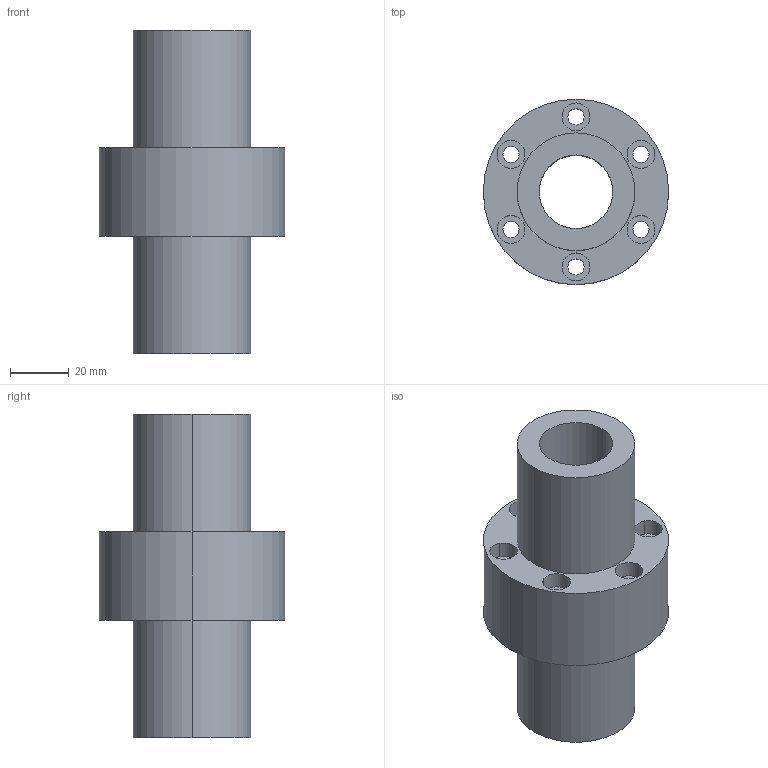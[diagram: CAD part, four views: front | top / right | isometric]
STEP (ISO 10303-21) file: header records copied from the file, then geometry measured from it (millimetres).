
FILE_DESCRIPTION((''),'2;1');
FILE_NAME('25-5T4','2008-04-03T',('yanyu'),(''),'PRO/ENGINEER BY PARAMETRIC TECHNOLOGY CORPORATION, 2005070','PRO/ENGINEER BY PARAMETRIC TECHNOLOGY CORPORATION, 2005070','');
FILE_SCHEMA(('CONFIG_CONTROL_DESIGN'));
Length unit declared in the file: millimetre
Products named in the file (1): 25-5T4
Bounding box: 63 x 63 x 110 mm (x, y, z)
Volume: 134220.6 mm3; surface area: 33122.6 mm2
Topology: 1 solids, 1 shells, 42 faces, 100 edges, 68 vertices
Faces by surface type: cylinder 32, plane 10
Entity records: 1330 total; most frequent: DIRECTION 252, CARTESIAN_POINT 210, ORIENTED_EDGE 200, AXIS2_PLACEMENT_3D 110, EDGE_CURVE 100, VERTEX_POINT 68, CIRCLE 68, EDGE_LOOP 64
